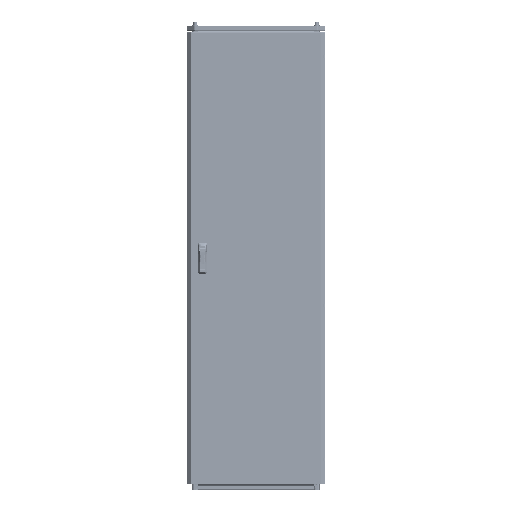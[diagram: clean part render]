
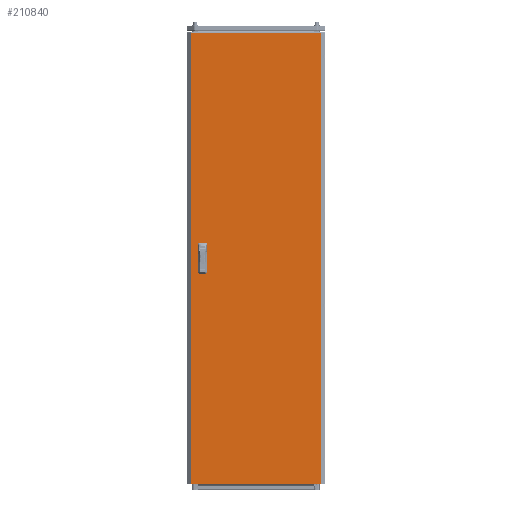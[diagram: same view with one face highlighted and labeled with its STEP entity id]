
A CAD part, top view. The second image highlights one B-rep face of the part: STEP entity #210840.
In plain terms, the highlighted planar face has unit normal (0, 0, 1).
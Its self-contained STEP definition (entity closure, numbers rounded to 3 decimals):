
#5690 = VECTOR ( 'NONE', #77242, 1000. ) ;
#8659 = EDGE_CURVE ( 'NONE', #200950, #215888, #168503, .T. ) ;
#9607 = CARTESIAN_POINT ( 'NONE',  ( -242.5, -62.5, 0. ) ) ;
#10541 = CARTESIAN_POINT ( 'NONE',  ( -242.5, 12.5, 0. ) ) ;
#12390 = PLANE ( 'NONE',  #20164 ) ;
#13702 = ORIENTED_EDGE ( 'NONE', *, *, #61386, .T. ) ;
#20164 = AXIS2_PLACEMENT_3D ( 'NONE', #188160, #73805, #205717 ) ;
#22118 = CARTESIAN_POINT ( 'NONE',  ( -242.5, -62.5, 0. ) ) ;
#23387 = CARTESIAN_POINT ( 'NONE',  ( -242.5, -12.5, 0. ) ) ;
#24619 = DIRECTION ( 'NONE',  ( -1., 0., 0. ) ) ;
#29783 = CARTESIAN_POINT ( 'NONE',  ( -277.875, 969.5, 0. ) ) ;
#30912 = EDGE_LOOP ( 'NONE', ( #237567, #190196, #188653, #163287 ) ) ;
#33794 = CARTESIAN_POINT ( 'NONE',  ( -277.875, -969.5, 0. ) ) ;
#38447 = VECTOR ( 'NONE', #96477, 1000. ) ;
#40934 = VECTOR ( 'NONE', #75010, 1000. ) ;
#47147 = DIRECTION ( 'NONE',  ( 1., 0., 0. ) ) ;
#48578 = LINE ( 'NONE', #29783, #144404 ) ;
#59109 = VERTEX_POINT ( 'NONE', #71679 ) ;
#59747 = LINE ( 'NONE', #22118, #246907 ) ;
#60575 = EDGE_CURVE ( 'NONE', #220864, #59109, #59747, .T. ) ;
#61386 = EDGE_CURVE ( 'NONE', #103404, #218796, #94002, .T. ) ;
#63500 = EDGE_CURVE ( 'NONE', #59109, #239422, #184143, .T. ) ;
#65250 = CARTESIAN_POINT ( 'NONE',  ( -242.5, 12.5, 0. ) ) ;
#70156 = EDGE_LOOP ( 'NONE', ( #209668, #198474, #13702, #126007 ) ) ;
#70577 = VECTOR ( 'NONE', #24619, 1000. ) ;
#71679 = CARTESIAN_POINT ( 'NONE',  ( -242.5, -62.5, 0. ) ) ;
#73805 = DIRECTION ( 'NONE',  ( 0., 0., -1. ) ) ;
#75010 = DIRECTION ( 'NONE',  ( 0., 1., 0. ) ) ;
#76730 = EDGE_CURVE ( 'NONE', #215888, #103404, #48578, .T. ) ;
#77242 = DIRECTION ( 'NONE',  ( -1., 0., 0. ) ) ;
#80301 = EDGE_CURVE ( 'NONE', #96511, #169346, #85298, .T. ) ;
#85298 = LINE ( 'NONE', #65250, #158656 ) ;
#86013 = LINE ( 'NONE', #103640, #189450 ) ;
#89381 = LINE ( 'NONE', #169767, #157651 ) ;
#93040 = CARTESIAN_POINT ( 'NONE',  ( 277.875, 969.5, 0. ) ) ;
#93075 = DIRECTION ( 'NONE',  ( 0., 1., 0. ) ) ;
#93658 = VERTEX_POINT ( 'NONE', #236965 ) ;
#94002 = LINE ( 'NONE', #33794, #38447 ) ;
#95671 = LINE ( 'NONE', #116980, #243027 ) ;
#96393 = CARTESIAN_POINT ( 'NONE',  ( -217.5, -62.5, 0. ) ) ;
#96477 = DIRECTION ( 'NONE',  ( 0., -1., 0. ) ) ;
#96511 = VERTEX_POINT ( 'NONE', #186766 ) ;
#103404 = VERTEX_POINT ( 'NONE', #241667 ) ;
#103640 = CARTESIAN_POINT ( 'NONE',  ( -242.5, 12.5, 0. ) ) ;
#104479 = DIRECTION ( 'NONE',  ( 0., -1., 0. ) ) ;
#106313 = DIRECTION ( 'NONE',  ( -1., 0., 0. ) ) ;
#107728 = EDGE_CURVE ( 'NONE', #161959, #93658, #150441, .T. ) ;
#111930 = DIRECTION ( 'NONE',  ( 0., 1., 0. ) ) ;
#114947 = LINE ( 'NONE', #191619, #5690 ) ;
#115492 = VECTOR ( 'NONE', #240604, 1000. ) ;
#116980 = CARTESIAN_POINT ( 'NONE',  ( -277.875, -969.5, 0. ) ) ;
#118224 = DIRECTION ( 'NONE',  ( 1., 0., 0. ) ) ;
#119547 = VERTEX_POINT ( 'NONE', #204516 ) ;
#120570 = DIRECTION ( 'NONE',  ( 0., -1., 0. ) ) ;
#126007 = ORIENTED_EDGE ( 'NONE', *, *, #176429, .T. ) ;
#135654 = CARTESIAN_POINT ( 'NONE',  ( -217.5, 12.5, 0. ) ) ;
#144404 = VECTOR ( 'NONE', #106313, 1000. ) ;
#149221 = FACE_BOUND ( 'NONE', #30912, .T. ) ;
#150110 = EDGE_CURVE ( 'NONE', #169346, #161959, #86013, .T. ) ;
#150441 = LINE ( 'NONE', #226991, #40934 ) ;
#157651 = VECTOR ( 'NONE', #93075, 1000. ) ;
#158656 = VECTOR ( 'NONE', #120570, 1000. ) ;
#158944 = ORIENTED_EDGE ( 'NONE', *, *, #107728, .F. ) ;
#161061 = VECTOR ( 'NONE', #111930, 1000. ) ;
#161959 = VERTEX_POINT ( 'NONE', #135654 ) ;
#163287 = ORIENTED_EDGE ( 'NONE', *, *, #60575, .F. ) ;
#168089 = FACE_BOUND ( 'NONE', #209116, .T. ) ;
#168503 = LINE ( 'NONE', #189814, #161061 ) ;
#169346 = VERTEX_POINT ( 'NONE', #10541 ) ;
#169767 = CARTESIAN_POINT ( 'NONE',  ( -217.5, -62.5, 0. ) ) ;
#170513 = CARTESIAN_POINT ( 'NONE',  ( 277.875, -969.5, 0. ) ) ;
#173436 = CARTESIAN_POINT ( 'NONE',  ( -242.5, -12.5, 0. ) ) ;
#174549 = EDGE_CURVE ( 'NONE', #119547, #220864, #235548, .T. ) ;
#176429 = EDGE_CURVE ( 'NONE', #218796, #200950, #95671, .T. ) ;
#184143 = LINE ( 'NONE', #9607, #115492 ) ;
#186766 = CARTESIAN_POINT ( 'NONE',  ( -242.5, 62.5, 0. ) ) ;
#188160 = CARTESIAN_POINT ( 'NONE',  ( 0., 0., 0. ) ) ;
#188653 = ORIENTED_EDGE ( 'NONE', *, *, #63500, .F. ) ;
#189450 = VECTOR ( 'NONE', #47147, 1000. ) ;
#189814 = CARTESIAN_POINT ( 'NONE',  ( 277.875, -969.5, 0. ) ) ;
#190196 = ORIENTED_EDGE ( 'NONE', *, *, #195389, .F. ) ;
#191619 = CARTESIAN_POINT ( 'NONE',  ( -242.5, 62.5, 0. ) ) ;
#195389 = EDGE_CURVE ( 'NONE', #239422, #119547, #89381, .T. ) ;
#198474 = ORIENTED_EDGE ( 'NONE', *, *, #76730, .T. ) ;
#200950 = VERTEX_POINT ( 'NONE', #170513 ) ;
#200990 = ORIENTED_EDGE ( 'NONE', *, *, #150110, .F. ) ;
#204516 = CARTESIAN_POINT ( 'NONE',  ( -217.5, -12.5, 0. ) ) ;
#205717 = DIRECTION ( 'NONE',  ( -1., 0., 0. ) ) ;
#209116 = EDGE_LOOP ( 'NONE', ( #213134, #158944, #200990, #234940 ) ) ;
#209668 = ORIENTED_EDGE ( 'NONE', *, *, #8659, .T. ) ;
#210840 = ADVANCED_FACE ( 'NONE', ( #168089, #149221, #245870 ), #12390, .F. ) ;
#213134 = ORIENTED_EDGE ( 'NONE', *, *, #246539, .F. ) ;
#214099 = CARTESIAN_POINT ( 'NONE',  ( -277.875, -969.5, 0. ) ) ;
#215888 = VERTEX_POINT ( 'NONE', #93040 ) ;
#218796 = VERTEX_POINT ( 'NONE', #214099 ) ;
#220864 = VERTEX_POINT ( 'NONE', #173436 ) ;
#226991 = CARTESIAN_POINT ( 'NONE',  ( -217.5, 12.5, 0. ) ) ;
#234940 = ORIENTED_EDGE ( 'NONE', *, *, #80301, .F. ) ;
#235548 = LINE ( 'NONE', #23387, #70577 ) ;
#236965 = CARTESIAN_POINT ( 'NONE',  ( -217.5, 62.5, 0. ) ) ;
#237567 = ORIENTED_EDGE ( 'NONE', *, *, #174549, .F. ) ;
#239422 = VERTEX_POINT ( 'NONE', #96393 ) ;
#240604 = DIRECTION ( 'NONE',  ( 1., 0., 0. ) ) ;
#241667 = CARTESIAN_POINT ( 'NONE',  ( -277.875, 969.5, 0. ) ) ;
#243027 = VECTOR ( 'NONE', #118224, 1000. ) ;
#245870 = FACE_OUTER_BOUND ( 'NONE', #70156, .T. ) ;
#246539 = EDGE_CURVE ( 'NONE', #93658, #96511, #114947, .T. ) ;
#246907 = VECTOR ( 'NONE', #104479, 1000. ) ;
